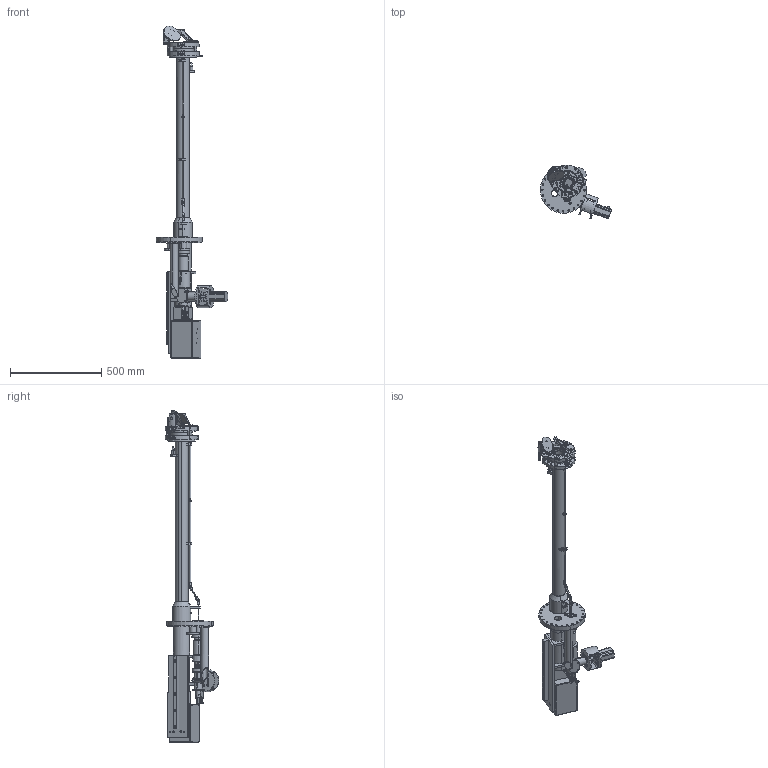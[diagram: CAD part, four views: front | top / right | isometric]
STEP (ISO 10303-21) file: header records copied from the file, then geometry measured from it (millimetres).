
FILE_DESCRIPTION(('CATIA V5 STEP Exchange','CAx-IF Rec.Pracs.--- Model Styling and Organization---1.5--- 2016-08-15','CAx-IF Rec.Pracs.---Supplemental Geometry---1.0---2011-11-01','CAx-IF Rec.Pracs.--- Composite Materials ---3.4---2017-06-13','CAx-IF Rec.Pracs.---Tessellated 3D Geometry---1.0---2015-12-17'),'2;1');
FILE_NAME('C:\Users\bertam\Documents\103223_V01_PRT.stp','2025-05-26T08:16:12+00:00',('none'),('none'),'CATIA Version 5-6 Release 2024 SP2 HF5','CATIA V5 STEP AP242 v3','none');
FILE_SCHEMA(('AP242_MANAGED_MODEL_BASED_3D_ENGINEERING_MIM_LF {1 0 10303 442 1 1 4}'));
Length unit declared in the file: millimetre
Products named in the file (1): 103223_V01_PRT
Bounding box: 390.49 x 292.84 x 1818.4 mm (x, y, z)
Volume: 10333459.1 mm3; surface area: 1957265.5 mm2
Topology: 108 solids, 108 shells, 4089 faces, 10911 edges, 7068 vertices
Faces by surface type: cylinder 1873, plane 1753, cone 329, torus 68, bspline 46, sphere 16, revolution 4
Entity records: 126652 total; most frequent: CARTESIAN_POINT 30732, ORIENTED_EDGE 21594, DIRECTION 15044, EDGE_CURVE 10797, VERTEX_POINT 7065, AXIS2_PLACEMENT_3D 6433, VECTOR 5918, LINE 5918
